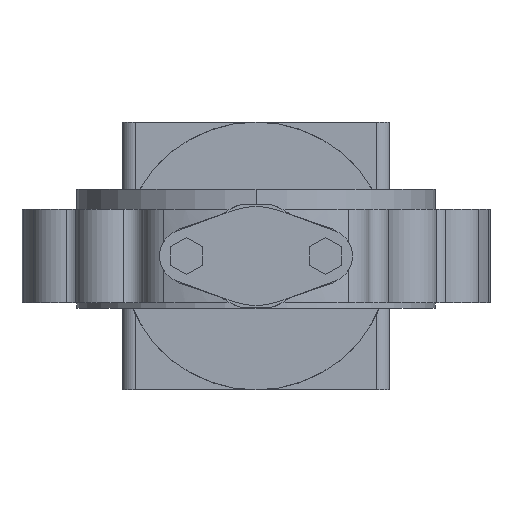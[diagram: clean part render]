
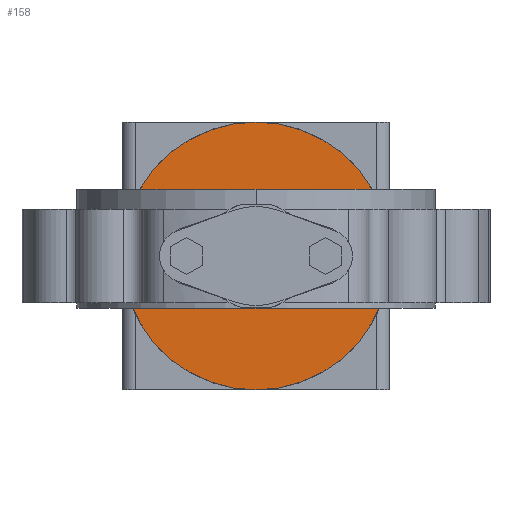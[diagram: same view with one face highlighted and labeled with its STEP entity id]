
A CAD part, front view. The second image highlights one B-rep face of the part: STEP entity #158.
In plain terms, the highlighted planar face has unit normal (0, -1, 0).
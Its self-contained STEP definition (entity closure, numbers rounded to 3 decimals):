
#158 = ADVANCED_FACE( '', ( #525, #526 ), #527, .T. );
#525 = FACE_OUTER_BOUND( '', #1113, .T. );
#526 = FACE_BOUND( '', #1114, .T. );
#527 = PLANE( '', #1115 );
#1113 = EDGE_LOOP( '', ( #2183, #2184 ) );
#1114 = EDGE_LOOP( '', ( #2185, #2186, #2187, #2188 ) );
#1115 = AXIS2_PLACEMENT_3D( '', #2189, #2190, #2191 );
#2183 = ORIENTED_EDGE( '', *, *, #3927, .F. );
#2184 = ORIENTED_EDGE( '', *, *, #4077, .F. );
#2185 = ORIENTED_EDGE( '', *, *, #4078, .T. );
#2186 = ORIENTED_EDGE( '', *, *, #4079, .T. );
#2187 = ORIENTED_EDGE( '', *, *, #4080, .T. );
#2188 = ORIENTED_EDGE( '', *, *, #4081, .T. );
#2189 = CARTESIAN_POINT( '', ( 59., 250., 0. ) );
#2190 = DIRECTION( '', ( 0., -1., 0. ) );
#2191 = DIRECTION( '', ( -1., 0., 0. ) );
#3927 = EDGE_CURVE( '', #4790, #4793, #4794, .T. );
#4077 = EDGE_CURVE( '', #4793, #4790, #5037, .T. );
#4078 = EDGE_CURVE( '', #5038, #5039, #5040, .T. );
#4079 = EDGE_CURVE( '', #5039, #5041, #5042, .T. );
#4080 = EDGE_CURVE( '', #5041, #5043, #5044, .T. );
#4081 = EDGE_CURVE( '', #5043, #5038, #5045, .T. );
#4790 = VERTEX_POINT( '', #6445 );
#4793 = VERTEX_POINT( '', #6449 );
#4794 = CIRCLE( '', #6450, 100. );
#5037 = CIRCLE( '', #7015, 100. );
#5038 = VERTEX_POINT( '', #7016 );
#5039 = VERTEX_POINT( '', #7017 );
#5040 = LINE( '', #7018, #7019 );
#5041 = VERTEX_POINT( '', #7020 );
#5042 = LINE( '', #7021, #7022 );
#5043 = VERTEX_POINT( '', #7023 );
#5044 = LINE( '', #7024, #7025 );
#5045 = LINE( '', #7026, #7027 );
#6445 = CARTESIAN_POINT( '', ( 100., 250., 0. ) );
#6449 = CARTESIAN_POINT( '', ( -100., 250., 0. ) );
#6450 = AXIS2_PLACEMENT_3D( '', #8376, #8377, #8378 );
#7015 = AXIS2_PLACEMENT_3D( '', #8656, #8657, #8658 );
#7016 = CARTESIAN_POINT( '', ( -49., 250., -35. ) );
#7017 = CARTESIAN_POINT( '', ( -49., 250., 35. ) );
#7018 = CARTESIAN_POINT( '', ( -49., 250., -35. ) );
#7019 = VECTOR( '', #8659, 1. );
#7020 = CARTESIAN_POINT( '', ( 49., 250., 35. ) );
#7021 = CARTESIAN_POINT( '', ( -49., 250., 35. ) );
#7022 = VECTOR( '', #8660, 1. );
#7023 = CARTESIAN_POINT( '', ( 49., 250., -35. ) );
#7024 = CARTESIAN_POINT( '', ( 49., 250., 35. ) );
#7025 = VECTOR( '', #8661, 1. );
#7026 = CARTESIAN_POINT( '', ( 49., 250., -35. ) );
#7027 = VECTOR( '', #8662, 1. );
#8376 = CARTESIAN_POINT( '', ( 0., 250., 0. ) );
#8377 = DIRECTION( '', ( 0., 1., 0. ) );
#8378 = DIRECTION( '', ( 1., 0., 0. ) );
#8656 = CARTESIAN_POINT( '', ( 0., 250., 0. ) );
#8657 = DIRECTION( '', ( 0., 1., 0. ) );
#8658 = DIRECTION( '', ( 1., 0., 0. ) );
#8659 = DIRECTION( '', ( 0., 0., 1. ) );
#8660 = DIRECTION( '', ( 1., 0., 0. ) );
#8661 = DIRECTION( '', ( 0., 0., -1. ) );
#8662 = DIRECTION( '', ( -1., 0., 0. ) );
